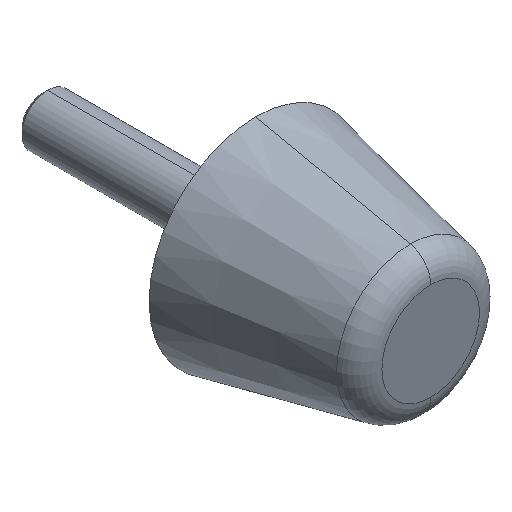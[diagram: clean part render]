
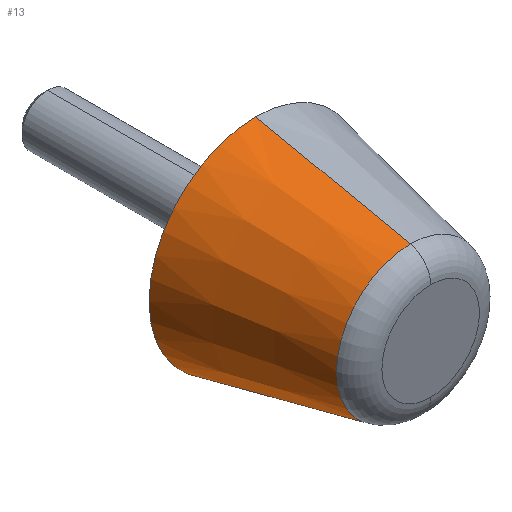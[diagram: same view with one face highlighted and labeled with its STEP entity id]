
A CAD part, isometric view. The second image highlights one B-rep face of the part: STEP entity #13.
In plain terms, the highlighted conical face has half-angle 11.98 degrees and reference radius 8.15 mm.
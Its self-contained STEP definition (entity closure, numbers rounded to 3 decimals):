
#7 = VERTEX_POINT ( 'NONE', #205 ) ;
#11 = CARTESIAN_POINT ( 'NONE',  ( 0., 2.377, 0. ) ) ;
#13 = ADVANCED_FACE ( 'NONE', ( #135 ), #82, .T. ) ;
#37 = DIRECTION ( 'NONE',  ( 0., 0., 1. ) ) ;
#57 = VECTOR ( 'NONE', #346, 1000. ) ;
#66 = AXIS2_PLACEMENT_3D ( 'NONE', #11, #304, #364 ) ;
#70 = CIRCLE ( 'NONE', #66, 8.654 ) ;
#76 = CARTESIAN_POINT ( 'NONE',  ( 0., 20.5, 12.5 ) ) ;
#82 = CONICAL_SURFACE ( 'NONE', #239, 8.15, 0.209 ) ;
#102 = EDGE_LOOP ( 'NONE', ( #258, #168, #251, #141 ) ) ;
#110 = LINE ( 'NONE', #188, #209 ) ;
#114 = DIRECTION ( 'NONE',  ( 0., -1., 0. ) ) ;
#124 = EDGE_CURVE ( 'NONE', #523, #510, #217, .T. ) ;
#135 = FACE_OUTER_BOUND ( 'NONE', #102, .T. ) ;
#139 = CARTESIAN_POINT ( 'NONE',  ( 0., 0., 0. ) ) ;
#141 = ORIENTED_EDGE ( 'NONE', *, *, #415, .T. ) ;
#147 = EDGE_CURVE ( 'NONE', #523, #7, #70, .T. ) ;
#168 = ORIENTED_EDGE ( 'NONE', *, *, #147, .T. ) ;
#188 = CARTESIAN_POINT ( 'NONE',  ( 0., 0., 8.15 ) ) ;
#198 = CARTESIAN_POINT ( 'NONE',  ( 0., 20.5, -12.5 ) ) ;
#200 = CARTESIAN_POINT ( 'NONE',  ( 0., 2.377, -8.654 ) ) ;
#205 = CARTESIAN_POINT ( 'NONE',  ( 0., 2.377, 8.654 ) ) ;
#209 = VECTOR ( 'NONE', #229, 1000. ) ;
#217 = LINE ( 'NONE', #394, #57 ) ;
#229 = DIRECTION ( 'NONE',  ( 0., 0.978, 0.208 ) ) ;
#239 = AXIS2_PLACEMENT_3D ( 'NONE', #139, #281, #37 ) ;
#251 = ORIENTED_EDGE ( 'NONE', *, *, #435, .T. ) ;
#258 = ORIENTED_EDGE ( 'NONE', *, *, #124, .F. ) ;
#261 = VERTEX_POINT ( 'NONE', #76 ) ;
#270 = AXIS2_PLACEMENT_3D ( 'NONE', #303, #114, #357 ) ;
#281 = DIRECTION ( 'NONE',  ( 0., 1., 0. ) ) ;
#303 = CARTESIAN_POINT ( 'NONE',  ( 0., 20.5, 0. ) ) ;
#304 = DIRECTION ( 'NONE',  ( 0., 1., 0. ) ) ;
#346 = DIRECTION ( 'NONE',  ( 0., 0.978, -0.208 ) ) ;
#357 = DIRECTION ( 'NONE',  ( 0., 0., -1. ) ) ;
#364 = DIRECTION ( 'NONE',  ( 0., 0., -1. ) ) ;
#394 = CARTESIAN_POINT ( 'NONE',  ( 0., 0., -8.15 ) ) ;
#415 = EDGE_CURVE ( 'NONE', #261, #510, #520, .T. ) ;
#435 = EDGE_CURVE ( 'NONE', #7, #261, #110, .T. ) ;
#510 = VERTEX_POINT ( 'NONE', #198 ) ;
#520 = CIRCLE ( 'NONE', #270, 12.5 ) ;
#523 = VERTEX_POINT ( 'NONE', #200 ) ;
